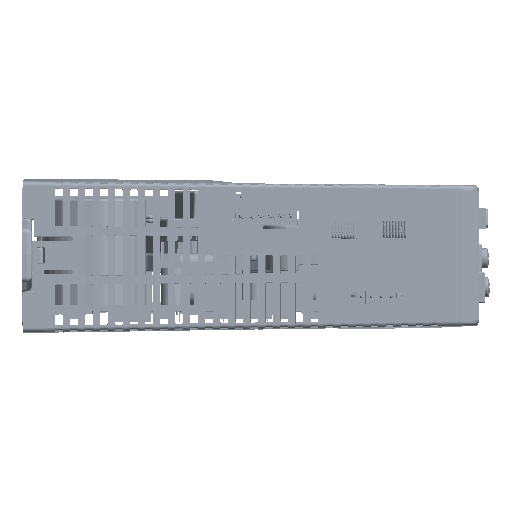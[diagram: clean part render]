
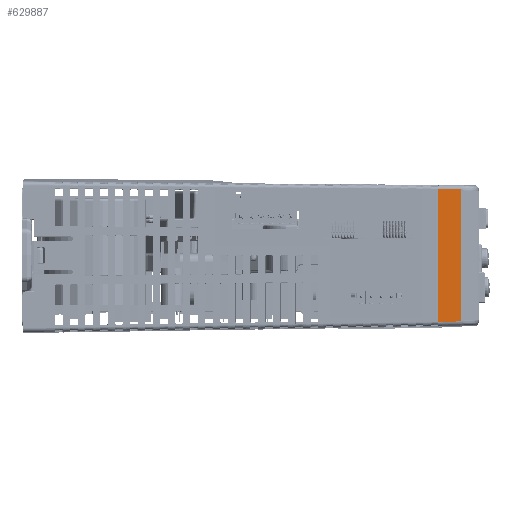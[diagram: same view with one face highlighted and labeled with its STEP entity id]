
A CAD part, top view. The second image highlights one B-rep face of the part: STEP entity #629887.
In plain terms, the highlighted planar face has unit normal (0.009, 0, 1) as drawn and (-1, -0.009, 0) by its records, which use the part's own axes.
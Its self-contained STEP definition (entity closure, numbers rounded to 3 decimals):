
#6695 = CARTESIAN_POINT ( 'NONE',  ( -74.8, -78.836, 22.714 ) ) ;
#24617 = LINE ( 'NONE', #1171665, #511480 ) ;
#35459 = VERTEX_POINT ( 'NONE', #866383 ) ;
#43485 = CARTESIAN_POINT ( 'NONE',  ( -74.852, -72.85, -22.84 ) ) ;
#66248 = DIRECTION ( 'NONE',  ( -1., -0.009, 0. ) ) ;
#70450 = VECTOR ( 'NONE', #812122, 1000. ) ;
#72966 = CARTESIAN_POINT ( 'NONE',  ( -74.932, -63.692, 23.853 ) ) ;
#96720 = VECTOR ( 'NONE', #1143374, 1000. ) ;
#101239 = CARTESIAN_POINT ( 'NONE',  ( -74.921, -64.964, 24.614 ) ) ;
#110404 = EDGE_CURVE ( 'NONE', #882978, #892220, #689982, .T. ) ;
#111109 = VERTEX_POINT ( 'NONE', #583246 ) ;
#111626 = CARTESIAN_POINT ( 'NONE',  ( -74.852, -72.85, 22.802 ) ) ;
#119809 = LINE ( 'NONE', #101239, #1047927 ) ;
#123052 = ORIENTED_EDGE ( 'NONE', *, *, #552170, .T. ) ;
#125530 = VECTOR ( 'NONE', #182587, 1000. ) ;
#127492 = ORIENTED_EDGE ( 'NONE', *, *, #110404, .T. ) ;
#133814 = EDGE_CURVE ( 'NONE', #812179, #111109, #119809, .T. ) ;
#139184 = VERTEX_POINT ( 'NONE', #1186670 ) ;
#140947 = CARTESIAN_POINT ( 'NONE',  ( -74.922, -64.918, 22.872 ) ) ;
#167200 = DIRECTION ( 'NONE',  ( -0.009, 1., 0.009 ) ) ;
#182587 = DIRECTION ( 'NONE',  ( 0., 0.026, 1. ) ) ;
#185791 = ORIENTED_EDGE ( 'NONE', *, *, #932316, .F. ) ;
#191575 = LINE ( 'NONE', #958475, #867732 ) ;
#239387 = FACE_OUTER_BOUND ( 'NONE', #1158789, .T. ) ;
#245095 = CARTESIAN_POINT ( 'NONE',  ( -74.852, -72.85, 32.837 ) ) ;
#250186 = LINE ( 'NONE', #72966, #125530 ) ;
#287881 = EDGE_CURVE ( 'NONE', #1131063, #1176863, #1278073, .T. ) ;
#305489 = CARTESIAN_POINT ( 'NONE',  ( -74.852, -72.85, 22.253 ) ) ;
#309783 = CARTESIAN_POINT ( 'NONE',  ( -74.852, -72.85, -22.84 ) ) ;
#310215 = CARTESIAN_POINT ( 'NONE',  ( -74.852, -72.85, -22.84 ) ) ;
#404661 = VECTOR ( 'NONE', #733610, 1000. ) ;
#416846 = DIRECTION ( 'NONE',  ( 0.009, -1., 0.015 ) ) ;
#425655 = ORIENTED_EDGE ( 'NONE', *, *, #463528, .T. ) ;
#428881 = CARTESIAN_POINT ( 'NONE',  ( -74.852, -72.85, -22.84 ) ) ;
#430373 = CARTESIAN_POINT ( 'NONE',  ( -74.852, -72.85, 24.25 ) ) ;
#460421 = DIRECTION ( 'NONE',  ( 0., 0., -1. ) ) ;
#463528 = EDGE_CURVE ( 'NONE', #1131063, #1245194, #954135, .T. ) ;
#488947 = LINE ( 'NONE', #1222163, #96720 ) ;
#509735 = VECTOR ( 'NONE', #416846, 1000. ) ;
#511480 = VECTOR ( 'NONE', #587212, 1000. ) ;
#517499 = CARTESIAN_POINT ( 'NONE',  ( -74.794, -79.568, -22.702 ) ) ;
#552170 = EDGE_CURVE ( 'NONE', #1245194, #812179, #191575, .T. ) ;
#583246 = CARTESIAN_POINT ( 'NONE',  ( -74.922, -64.917, 22.838 ) ) ;
#587212 = DIRECTION ( 'NONE',  ( 0., 0., 1. ) ) ;
#605281 = LINE ( 'NONE', #517499, #70450 ) ;
#615314 = EDGE_CURVE ( 'NONE', #892220, #35459, #845070, .T. ) ;
#629887 = ADVANCED_FACE ( 'NONE', ( #239387 ), #1156197, .T. ) ;
#665776 = EDGE_CURVE ( 'NONE', #1106348, #1171935, #605281, .T. ) ;
#677084 = CARTESIAN_POINT ( 'NONE',  ( -74.8, -78.85, 24.25 ) ) ;
#678358 = CARTESIAN_POINT ( 'NONE',  ( -74.852, -72.85, 22.802 ) ) ;
#678435 = EDGE_CURVE ( 'NONE', #1175948, #1106348, #250186, .T. ) ;
#683011 = ORIENTED_EDGE ( 'NONE', *, *, #615314, .T. ) ;
#689982 = B_SPLINE_CURVE_WITH_KNOTS ( 'NONE', 3,
 ( #1228407, #310215, #428881, #727836 ),
 .UNSPECIFIED., .F., .F.,
 ( 4, 4 ),
 ( 0., 0. ),
 .UNSPECIFIED. ) ;
#727836 = CARTESIAN_POINT ( 'NONE',  ( -74.852, -72.85, -22.84 ) ) ;
#733610 = DIRECTION ( 'NONE',  ( 0., 0., 1. ) ) ;
#740981 = ORIENTED_EDGE ( 'NONE', *, *, #133814, .T. ) ;
#753407 = ORIENTED_EDGE ( 'NONE', *, *, #678435, .F. ) ;
#756371 = CARTESIAN_POINT ( 'NONE',  ( -74.922, -64.917, -22.96 ) ) ;
#766281 = ORIENTED_EDGE ( 'NONE', *, *, #1034323, .F. ) ;
#789335 = CARTESIAN_POINT ( 'NONE',  ( -74.852, -72.85, 22.802 ) ) ;
#803961 = CARTESIAN_POINT ( 'NONE',  ( -74.853, -72.828, -22.841 ) ) ;
#804473 = DIRECTION ( 'NONE',  ( 0., 0.026, -1. ) ) ;
#811068 = DIRECTION ( 'NONE',  ( -0.009, 1., 0.009 ) ) ;
#812122 = DIRECTION ( 'NONE',  ( 0.009, -1., 0.015 ) ) ;
#812179 = VERTEX_POINT ( 'NONE', #140947 ) ;
#845070 = LINE ( 'NONE', #430373, #404661 ) ;
#860641 = ORIENTED_EDGE ( 'NONE', *, *, #1081162, .T. ) ;
#866383 = CARTESIAN_POINT ( 'NONE',  ( -74.852, -72.85, -22.253 ) ) ;
#867732 = VECTOR ( 'NONE', #167200, 1000. ) ;
#881385 = EDGE_CURVE ( 'NONE', #35459, #1176863, #24617, .T. ) ;
#882978 = VERTEX_POINT ( 'NONE', #43485 ) ;
#892220 = VERTEX_POINT ( 'NONE', #309783 ) ;
#898360 = LINE ( 'NONE', #6695, #1118758 ) ;
#932316 = EDGE_CURVE ( 'NONE', #1171935, #139184, #488947, .T. ) ;
#954135 = B_SPLINE_CURVE_WITH_KNOTS ( 'NONE', 3,
 ( #1179103, #678358, #990162, #981491 ),
 .UNSPECIFIED., .F., .F.,
 ( 4, 4 ),
 ( 0., 0. ),
 .UNSPECIFIED. ) ;
#956886 = CARTESIAN_POINT ( 'NONE',  ( -74.922, -64.924, -22.926 ) ) ;
#958475 = CARTESIAN_POINT ( 'NONE',  ( -74.8, -78.837, 22.75 ) ) ;
#981491 = CARTESIAN_POINT ( 'NONE',  ( -74.852, -72.85, 22.802 ) ) ;
#990162 = CARTESIAN_POINT ( 'NONE',  ( -74.852, -72.85, 22.802 ) ) ;
#1034323 = EDGE_CURVE ( 'NONE', #139184, #111109, #898360, .T. ) ;
#1047927 = VECTOR ( 'NONE', #804473, 1000. ) ;
#1066325 = ORIENTED_EDGE ( 'NONE', *, *, #881385, .T. ) ;
#1072495 = DIRECTION ( 'NONE',  ( 0.009, -1., 0. ) ) ;
#1081162 = EDGE_CURVE ( 'NONE', #1175948, #882978, #1155093, .T. ) ;
#1106348 = VERTEX_POINT ( 'NONE', #1251779 ) ;
#1118758 = VECTOR ( 'NONE', #811068, 1000. ) ;
#1131063 = VERTEX_POINT ( 'NONE', #789335 ) ;
#1143374 = DIRECTION ( 'NONE',  ( 0., 0., 1. ) ) ;
#1155093 = LINE ( 'NONE', #803961, #509735 ) ;
#1156197 = PLANE ( 'NONE',  #1267961 ) ;
#1158789 = EDGE_LOOP ( 'NONE', ( #753407, #860641, #127492, #683011, #1066325, #1294927, #425655, #123052, #740981, #766281, #185791, #1286698 ) ) ;
#1171665 = CARTESIAN_POINT ( 'NONE',  ( -74.852, -72.85, 24.25 ) ) ;
#1171935 = VERTEX_POINT ( 'NONE', #956886 ) ;
#1175948 = VERTEX_POINT ( 'NONE', #756371 ) ;
#1176863 = VERTEX_POINT ( 'NONE', #305489 ) ;
#1179103 = CARTESIAN_POINT ( 'NONE',  ( -74.852, -72.85, 22.802 ) ) ;
#1186670 = CARTESIAN_POINT ( 'NONE',  ( -74.922, -64.924, 22.838 ) ) ;
#1222163 = CARTESIAN_POINT ( 'NONE',  ( -74.922, -64.924, 24.25 ) ) ;
#1228407 = CARTESIAN_POINT ( 'NONE',  ( -74.852, -72.85, -22.84 ) ) ;
#1245194 = VERTEX_POINT ( 'NONE', #111626 ) ;
#1246498 = VECTOR ( 'NONE', #460421, 1000. ) ;
#1251779 = CARTESIAN_POINT ( 'NONE',  ( -74.922, -64.917, -22.927 ) ) ;
#1267961 = AXIS2_PLACEMENT_3D ( 'NONE', #677084, #66248, #1072495 ) ;
#1278073 = LINE ( 'NONE', #245095, #1246498 ) ;
#1286698 = ORIENTED_EDGE ( 'NONE', *, *, #665776, .F. ) ;
#1294927 = ORIENTED_EDGE ( 'NONE', *, *, #287881, .F. ) ;
